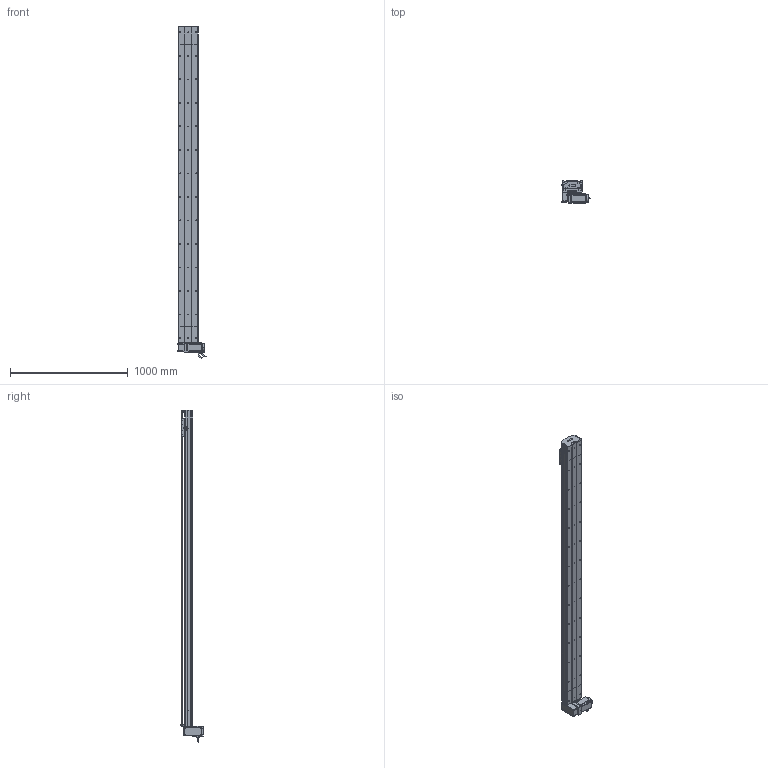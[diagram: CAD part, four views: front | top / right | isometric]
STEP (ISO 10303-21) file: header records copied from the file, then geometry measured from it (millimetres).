
FILE_DESCRIPTION (( 'STEP AP214' ), '1' );
FILE_NAME ('D17 TBH RU S2400.STEP', '2010-06-30T08:41:42', ( 'Christophe Gaillard' ), ( 'SGA' ), 'SwSTEP 2.0', 'SolidWorks 2010', '' );
FILE_SCHEMA (( 'AUTOMOTIVE_DESIGN' ));
Length unit declared in the file: millimetre
Products named in the file (40): corps 90BLDC125A-640; avant 90BLDC125A-640; D17 TBH RU S2400; vis M5 L5_Default; couroie head D17_Default; poulie head_Default; cache D17_Default; course 2400 D17B_Default; Couroie+ rail D17 Course 2400 ; Arbre+rail head D17B; plaque de  bout head D17B RU_Default; couvercle D17B head_Default; corp D17B 2400_Default; corpl head D17 _Default; Moteur motionking 90BLDC125A-640; Head RU D17B_Default; couvercle D17B course L2400_Default; vis M5 L12_Default; Conecteur_Default; Conecteur2_Default; codeur 90BLDC125-640; Vis M5 L16-2_Default; vis M5 L16_Default; Plaque racord D17_Default; vis M5 L70_Default; Tail D17B_Default; Renvoi RU_Default; cache arbre D17_Default; Rail D17B; tete d''axe poulie D17B; corpl tail D17B_Default; Couroie tail D17B_Default; poulie tail_Default; plaque de  bout tail D17B_Default; vis M5 L25_Default; vis M5 L8 90°_Default; couvercle D17B_Default; guide D17; Chariot D17; chariot D17S_Default
Assembly tree (70 placements, depth 4):
  D17 TBH RU S2400
    chariot D17S_Default
      guide D17  x2
      vis M5 L12_Default  x4
      Chariot D17
    Tail D17B_Default
      Couroie tail D17B_Default
      vis M5 L12_Default  x4
      vis M5 L8 90°_Default  x2
      poulie tail_Default
      Rail D17B
      vis M5 L25_Default  x2
      couvercle D17B_Default
      corpl tail D17B_Default
      tete d''axe poulie D17B
      plaque de  bout tail D17B_Default
    course 2400 D17B_Default
      couvercle D17B course L2400_Default
      Couroie+ rail D17 Course 2400 
      corp D17B 2400_Default
    Head RU D17B_Default
      vis M5 L12_Default  x8
      vis M5 L16_Default  x2
      vis M5 L70_Default  x4
      Vis M5 L16-2_Default  x4
      Renvoi RU_Default
      vis M5 L5_Default  x4
      cache arbre D17_Default
      couvercle D17B head_Default
      Moteur motionking 90BLDC125A-640
        corps 90BLDC125A-640
        Conecteur2_Default
        avant 90BLDC125A-640
        codeur 90BLDC125-640
        Conecteur_Default
      poulie head_Default
      Arbre+rail head D17B
      vis M5 L25_Default  x2
      Plaque racord D17_Default
      couroie head D17_Default
      cache D17_Default  x2
      plaque de  bout head D17B RU_Default
      corpl head D17 _Default
Bounding box: 245.2 x 188.65 x 2823.95 mm (x, y, z)
Volume: 16390423.8 mm3; surface area: 4740919.5 mm2
Topology: 94 solids, 94 shells, 2737 faces, 6953 edges, 4474 vertices
Faces by surface type: plane 1607, cylinder 817, bspline 136, cone 88, torus 85, sphere 4
Entity records: 86280 total; most frequent: CARTESIAN_POINT 25381, ORIENTED_EDGE 10678, DIRECTION 10124, EDGE_CURVE 5339, LINE 3502, VECTOR 3502, VERTEX_POINT 3498, AXIS2_PLACEMENT_3D 3311
